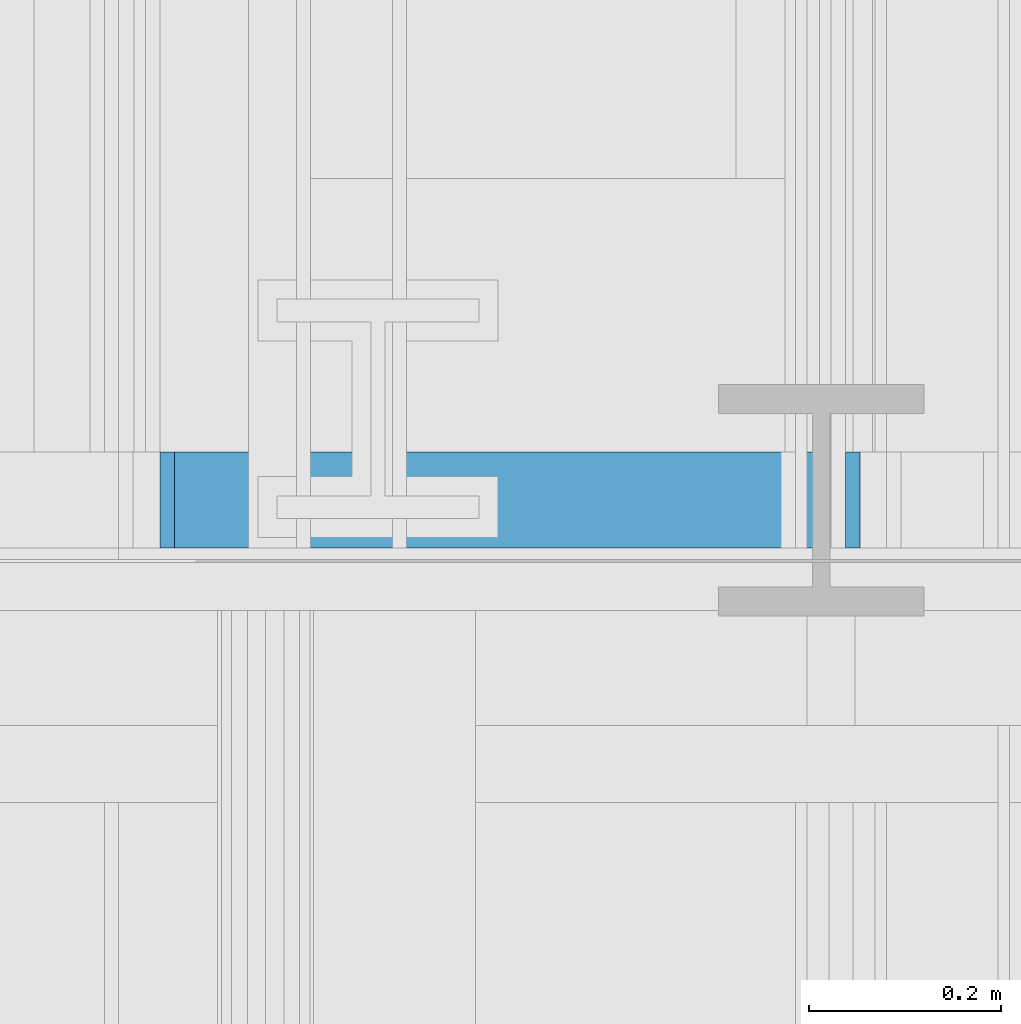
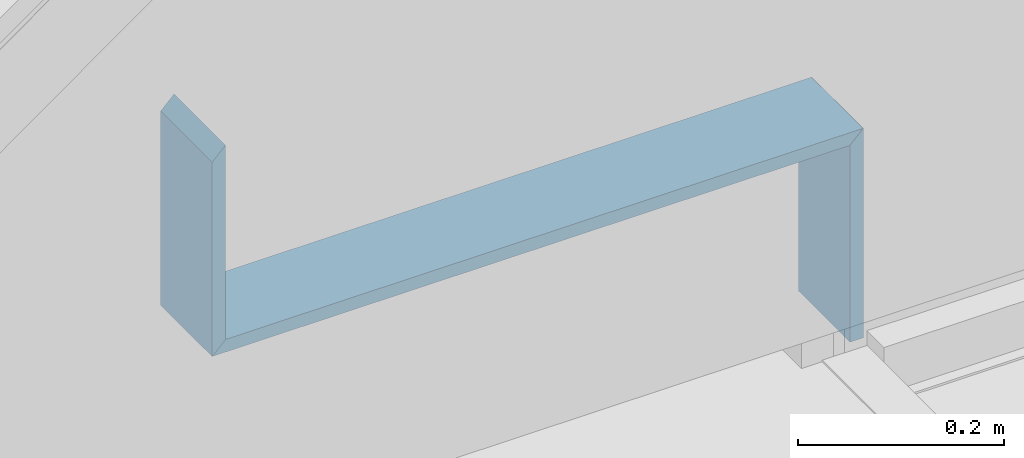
# One storey, part 221 of 583: 3 building element parts, 3 elements without a shape of their own.
"""IFC2X3 building model written with IfcOpenShell, lengths in metres."""

from ifc_helpers import new_model, entity, si_unit, converted_unit, derived_unit, money_unit, direction, frame, origin_with_axes, place, context, subcontext, project, spatial, polyline, outline, extrude, material, type_object, element, aggregate, save


model = new_model("IFC2X3")

# Units and contexts
model_context = context("Model", 3, precision=1e-05, world=origin_with_axes(), true_north=direction((0.0, 1.0)))
body_context = subcontext(model_context, "Body", "Model", "MODEL_VIEW", scale=1.0)
ifc_project = project(units=[si_unit("LENGTHUNIT", "METRE"), si_unit("AREAUNIT", "SQUARE_METRE"), si_unit("VOLUMEUNIT", "CUBIC_METRE"), si_unit("ABSORBEDDOSEUNIT", "GRAY"), si_unit("AMOUNTOFSUBSTANCEUNIT", "MOLE"), si_unit("DOSEEQUIVALENTUNIT", "SIEVERT"), si_unit("ELECTRICCAPACITANCEUNIT", "FARAD"), si_unit("ELECTRICCHARGEUNIT", "COULOMB"), si_unit("ELECTRICCONDUCTANCEUNIT", "SIEMENS"), si_unit("ELECTRICCURRENTUNIT", "AMPERE"), si_unit("ELECTRICRESISTANCEUNIT", "OHM"), si_unit("ELECTRICVOLTAGEUNIT", "VOLT"), si_unit("ENERGYUNIT", "JOULE"), si_unit("FORCEUNIT", "NEWTON"), si_unit("FREQUENCYUNIT", "HERTZ"), si_unit("ILLUMINANCEUNIT", "LUX"), si_unit("INDUCTANCEUNIT", "HENRY"), si_unit("LUMINOUSFLUXUNIT", "LUMEN"), si_unit("LUMINOUSINTENSITYUNIT", "CANDELA"), si_unit("MAGNETICFLUXDENSITYUNIT", "TESLA"), si_unit("MAGNETICFLUXUNIT", "WEBER"), si_unit("MASSUNIT", "GRAM"), converted_unit("PLANEANGLEUNIT", "degree", entity("IfcReal", 0.0174532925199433), si_unit("PLANEANGLEUNIT", "RADIAN"), dimensions=[0, 0, 0, 0, 0, 0, 0]), si_unit("POWERUNIT", "WATT"), si_unit("PRESSUREUNIT", "PASCAL"), si_unit("RADIOACTIVITYUNIT", "BECQUEREL"), si_unit("SOLIDANGLEUNIT", "STERADIAN"), si_unit("THERMODYNAMICTEMPERATUREUNIT", "KELVIN"), si_unit("TIMEUNIT", "SECOND"), derived_unit("ACCELERATIONUNIT", [(si_unit("LENGTHUNIT", "METRE"), 1), (si_unit("TIMEUNIT", "SECOND"), -2)]), derived_unit("ANGULARVELOCITYUNIT", [(converted_unit("PLANEANGLEUNIT", "degree", entity("IfcReal", 0.0174532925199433), si_unit("PLANEANGLEUNIT", "RADIAN"), dimensions=[0, 0, 0, 0, 0, 0, 0]), 1), (si_unit("TIMEUNIT", "SECOND"), -1)]), derived_unit("CURVATUREUNIT", [(converted_unit("PLANEANGLEUNIT", "degree", entity("IfcReal", 0.0174532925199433), si_unit("PLANEANGLEUNIT", "RADIAN"), dimensions=[0, 0, 0, 0, 0, 0, 0]), 1), (si_unit("LENGTHUNIT", "METRE"), -1)]), derived_unit("DYNAMICVISCOSITYUNIT", [(si_unit("PRESSUREUNIT", "PASCAL"), 1), (si_unit("TIMEUNIT", "SECOND"), 1)]), derived_unit("HEATFLUXDENSITYUNIT", [(si_unit("POWERUNIT", "WATT"), 1), (si_unit("LENGTHUNIT", "METRE"), -2)]), derived_unit("HEATINGVALUEUNIT", [(si_unit("ENERGYUNIT", "JOULE"), 1), (si_unit("MASSUNIT", "GRAM"), -1)]), derived_unit("INTEGERCOUNTRATEUNIT", [(si_unit("TIMEUNIT", "SECOND"), -1)]), derived_unit("IONCONCENTRATIONUNIT", [(si_unit("MASSUNIT", "GRAM"), 1), (si_unit("VOLUMEUNIT", "CUBIC_METRE"), -1)]), derived_unit("ISOTHERMALMOISTURECAPACITYUNIT", [(si_unit("VOLUMEUNIT", "CUBIC_METRE"), 1), (si_unit("MASSUNIT", "GRAM"), -1)]), derived_unit("KINEMATICVISCOSITYUNIT", [(si_unit("AREAUNIT", "SQUARE_METRE"), 1), (si_unit("TIMEUNIT", "SECOND"), -1)]), derived_unit("LINEARFORCEUNIT", [(si_unit("FORCEUNIT", "NEWTON"), 1), (si_unit("LENGTHUNIT", "METRE"), -1)]), derived_unit("LINEARMOMENTUNIT", [(si_unit("FORCEUNIT", "NEWTON"), 1), (si_unit("LENGTHUNIT", "METRE"), -1)]), derived_unit("LINEARSTIFFNESSUNIT", [(si_unit("FORCEUNIT", "NEWTON"), 1), (si_unit("LENGTHUNIT", "METRE"), -1)]), derived_unit("LINEARVELOCITYUNIT", [(si_unit("LENGTHUNIT", "METRE"), 1), (si_unit("TIMEUNIT", "SECOND"), -1)]), derived_unit("LUMINOUSINTENSITYDISTRIBUTIONUNIT", [(si_unit("LUMINOUSINTENSITYUNIT", "CANDELA"), 1), (si_unit("LUMINOUSFLUXUNIT", "LUMEN"), -1)]), derived_unit("MASSDENSITYUNIT", [(si_unit("MASSUNIT", "GRAM"), 1), (si_unit("VOLUMEUNIT", "CUBIC_METRE"), -1)]), derived_unit("MASSFLOWRATEUNIT", [(si_unit("MASSUNIT", "GRAM"), 1), (si_unit("TIMEUNIT", "SECOND"), -1)]), derived_unit("MASSPERLENGTHUNIT", [(si_unit("MASSUNIT", "GRAM"), 1), (si_unit("LENGTHUNIT", "METRE"), -1)]), derived_unit("MODULUSOFELASTICITYUNIT", [(si_unit("FORCEUNIT", "NEWTON"), 1), (si_unit("AREAUNIT", "SQUARE_METRE"), -1)]), derived_unit("MODULUSOFLINEARSUBGRADEREACTIONUNIT", [(si_unit("FORCEUNIT", "NEWTON"), 1), (si_unit("LENGTHUNIT", "METRE"), -2)]), derived_unit("MODULUSOFROTATIONALSUBGRADEREACTIONUNIT", [(si_unit("FORCEUNIT", "NEWTON"), 1), (si_unit("LENGTHUNIT", "METRE"), 1)]), derived_unit("MODULUSOFSUBGRADEREACTIONUNIT", [(si_unit("FORCEUNIT", "NEWTON"), 1), (si_unit("VOLUMEUNIT", "CUBIC_METRE"), -1)]), derived_unit("MOISTUREDIFFUSIVITYUNIT", [(si_unit("VOLUMEUNIT", "CUBIC_METRE"), 1), (si_unit("TIMEUNIT", "SECOND"), -1)]), derived_unit("MOLECULARWEIGHTUNIT", [(si_unit("MASSUNIT", "GRAM"), 1), (si_unit("AMOUNTOFSUBSTANCEUNIT", "MOLE"), -1)]), derived_unit("PLANARFORCEUNIT", [(si_unit("FORCEUNIT", "NEWTON"), 1), (si_unit("LENGTHUNIT", "METRE"), -2)]), derived_unit("ROTATIONALFREQUENCYUNIT", [(si_unit("TIMEUNIT", "SECOND"), -1)]), derived_unit("ROTATIONALMASSUNIT", [(si_unit("MASSUNIT", "GRAM"), 1), (si_unit("LENGTHUNIT", "METRE"), 2)]), derived_unit("ROTATIONALSTIFFNESSUNIT", [(si_unit("FORCEUNIT", "NEWTON"), 1), (si_unit("LENGTHUNIT", "METRE"), 1), (converted_unit("PLANEANGLEUNIT", "degree", entity("IfcReal", 0.0174532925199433), si_unit("PLANEANGLEUNIT", "RADIAN"), dimensions=[0, 0, 0, 0, 0, 0, 0]), -1)]), derived_unit("SECTIONAREAINTEGRALUNIT", [(si_unit("LENGTHUNIT", "METRE"), 5)]), derived_unit("SECTIONMODULUSUNIT", [(si_unit("LENGTHUNIT", "METRE"), 3)]), derived_unit("SHEARMODULUSUNIT", [(si_unit("FORCEUNIT", "NEWTON"), 1), (si_unit("AREAUNIT", "SQUARE_METRE"), -1)]), derived_unit("SOUNDPOWERUNIT", [(si_unit("ENERGYUNIT", "JOULE"), 1), (si_unit("TIMEUNIT", "SECOND"), -1)]), derived_unit("SPECIFICHEATCAPACITYUNIT", [(si_unit("FORCEUNIT", "NEWTON"), 1), (si_unit("MASSUNIT", "GRAM"), -1), (si_unit("THERMODYNAMICTEMPERATUREUNIT", "KELVIN"), -1)]), derived_unit("TEMPERATUREGRADIENTUNIT", [(si_unit("THERMODYNAMICTEMPERATUREUNIT", "KELVIN"), 1), (si_unit("LENGTHUNIT", "METRE"), -1)]), derived_unit("THERMALADMITTANCEUNIT", [(si_unit("POWERUNIT", "WATT"), 1), (si_unit("AREAUNIT", "SQUARE_METRE"), -1), (si_unit("THERMODYNAMICTEMPERATUREUNIT", "KELVIN"), -1)]), derived_unit("THERMALCONDUCTANCEUNIT", [(si_unit("POWERUNIT", "WATT"), 1), (si_unit("LENGTHUNIT", "METRE"), -1), (si_unit("THERMODYNAMICTEMPERATUREUNIT", "KELVIN"), -1)]), derived_unit("THERMALEXPANSIONCOEFFICIENTUNIT", [(si_unit("THERMODYNAMICTEMPERATUREUNIT", "KELVIN"), -1)]), derived_unit("THERMALRESISTANCEUNIT", [(si_unit("AREAUNIT", "SQUARE_METRE"), 1), (si_unit("POWERUNIT", "WATT"), -1)]), derived_unit("THERMALTRANSMITTANCEUNIT", [(si_unit("POWERUNIT", "WATT"), 1), (si_unit("AREAUNIT", "SQUARE_METRE"), -1), (si_unit("THERMODYNAMICTEMPERATUREUNIT", "KELVIN"), -1)]), derived_unit("TORQUEUNIT", [(si_unit("FORCEUNIT", "NEWTON"), 1), (si_unit("LENGTHUNIT", "METRE"), 1)]), derived_unit("VAPORPERMEABILITYUNIT", [(si_unit("MASSUNIT", "GRAM"), 1), (si_unit("TIMEUNIT", "SECOND"), -1)]), derived_unit("VOLUMETRICFLOWRATEUNIT", [(si_unit("VOLUMEUNIT", "CUBIC_METRE"), 1), (si_unit("TIMEUNIT", "SECOND"), -1)]), derived_unit("WARPINGCONSTANTUNIT", [(si_unit("LENGTHUNIT", "METRE"), 6)]), derived_unit("WARPINGMOMENTUNIT", [(si_unit("FORCEUNIT", "NEWTON"), 1), (si_unit("LENGTHUNIT", "METRE"), 2)]), money_unit("GBP")], contexts=[model_context])

# Site, building, storey
site_placement = place(None, origin_with_axes())
site = spatial("IfcSite", under=ifc_project, at=site_placement, Name="Site", CompositionType="ELEMENT")
building_placement = place(site_placement, origin_with_axes())
building = spatial("IfcBuilding", under=site, at=building_placement, Name="Building01", CompositionType="ELEMENT")
storey_placement = place(building_placement, frame((0.0, 0.0, 20.78), z_axis=(0.0, 0.0, 1.0), x_axis=(1.0, 0.0, 0.0)))
storey = spatial("IfcBuildingStorey", under=building, at=storey_placement, Name="RL", CompositionType="ELEMENT", Elevation=20.78)

# Wall, building element part
wall_type = type_object("IfcWallType", Name="SHE_A-Walls_Type06f_ExternalWallInsulation_48+15mm", PredefinedType="NOTDEFINED")
wall_1_placement = place(storey_placement, frame((8.8, 8.64, -20.474), z_axis=(0.0, 1.0, 0.0), x_axis=(0.0, 0.0, -1.0)))
wall_1 = element("IfcWall", 1, at=wall_1_placement, inside=storey, type_object=wall_type, Name="6F", ObjectType="SHE_A-Walls_Type06f_ExternalWallInsulation_48+15mm")
ifc_material = material(Name="A_BSUK_Walls_Timber")
building_element_part_1_placement = place(wall_1_placement, origin_with_axes())
building_element_part_1 = element("IfcBuildingElementPart", 2, at=building_element_part_1_placement, material=ifc_material, Name="2", context=body_context, shape_type="SweptSolid", body=[
    extrude(outline(polyline([(-0.272, -0.078), (-0.042, -0.078), (-0.027, -0.063), (-0.257, -0.063), (-0.272, -0.078)])), frame((0.0, 0.0, 0.015), z_axis=(0.0, 0.0, 1.0), x_axis=(1.0, 0.0, 0.0)), (0.0, 0.0, 1.0), 0.1),
])
aggregate(wall_1, [building_element_part_1])

wall_2_placement = place(storey_placement, frame((9.51418, 8.64, -20.51), z_axis=(0.0, 1.0, 0.0), x_axis=(1.0, 0.0, 0.0)))
wall_2 = element("IfcWall", 3, at=wall_2_placement, inside=storey, type_object=wall_type, Name="6F", ObjectType="SHE_A-Walls_Type06f_ExternalWallInsulation_48+15mm")
building_element_part_2_placement = place(wall_2_placement, origin_with_axes())
building_element_part_2 = element("IfcBuildingElementPart", 4, at=building_element_part_2_placement, material=ifc_material, Name="2", context=body_context, shape_type="SweptSolid", body=[
    extrude(outline(polyline([(-0.63618, -0.078), (0.078, -0.078), (0.063, -0.063), (-0.65118, -0.063), (-0.63618, -0.078)])), frame((0.0, 0.0, 0.015), z_axis=(0.0, 0.0, 1.0), x_axis=(1.0, 0.0, 0.0)), (0.0, 0.0, 1.0), 0.1),
])
aggregate(wall_2, [building_element_part_2])

wall_3_placement = place(storey_placement, frame((9.51418, 8.64, -20.68), z_axis=(0.0, 1.0, 0.0), x_axis=(0.0, 0.0, -1.0)))
wall_3 = element("IfcWall", 5, at=wall_3_placement, inside=storey, type_object=wall_type, Name="6F", ObjectType="SHE_A-Walls_Type06f_ExternalWallInsulation_48+15mm")
building_element_part_3_placement = place(wall_3_placement, origin_with_axes())
building_element_part_3 = element("IfcBuildingElementPart", 6, at=building_element_part_3_placement, material=ifc_material, Name="2", context=body_context, shape_type="SweptSolid", body=[
    extrude(outline(polyline([(-0.248, -0.078), (0.0, -0.078), (0.0, -0.063), (-0.233, -0.063), (-0.248, -0.078)])), frame((0.0, 0.0, 0.015), z_axis=(0.0, 0.0, 1.0), x_axis=(1.0, 0.0, 0.0)), (0.0, 0.0, 1.0), 0.1),
])
aggregate(wall_3, [building_element_part_3])

save(model, "model.ifc")
